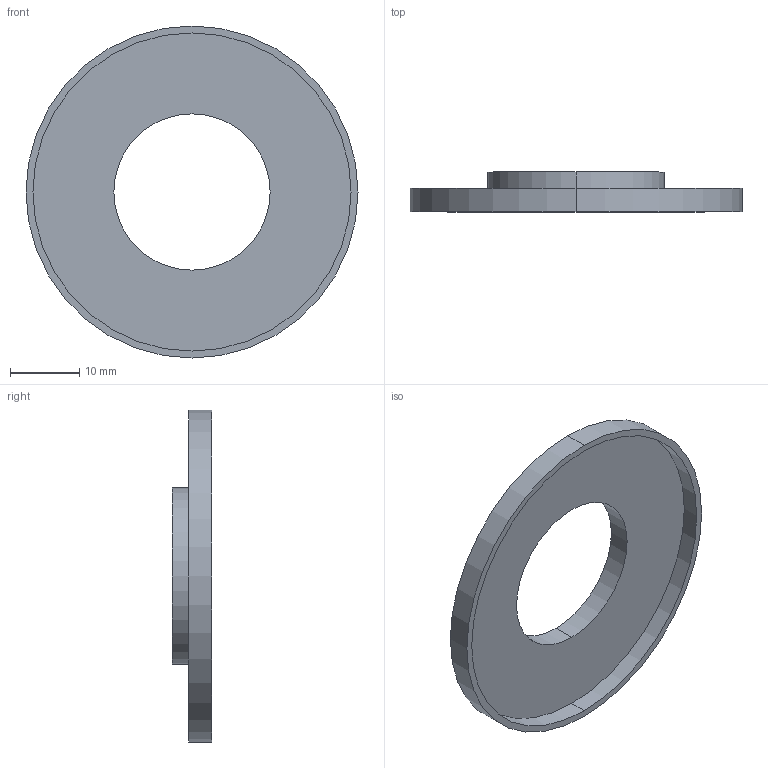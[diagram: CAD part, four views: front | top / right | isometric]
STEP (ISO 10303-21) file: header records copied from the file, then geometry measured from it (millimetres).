
FILE_DESCRIPTION (( 'STEP AP214' ), '1' );
FILE_NAME ('SU25.5-46.STEP', '2019-04-03T14:55:14', ( '' ), ( '' ), 'SwSTEP 2.0', 'SolidWorks 2019', '' );
FILE_SCHEMA (( 'AUTOMOTIVE_DESIGN' ));
Length unit declared in the file: millimetre
Products named in the file (1): SU25.5-46
Bounding box: 48 x 5.75 x 48 mm (x, y, z)
Volume: 1804.8 mm3; surface area: 4110.6 mm2
Topology: 1 solids, 1 shells, 12 faces, 24 edges, 16 vertices
Faces by surface type: cylinder 8, plane 4
Entity records: 362 total; most frequent: DIRECTION 66, CARTESIAN_POINT 53, ORIENTED_EDGE 48, AXIS2_PLACEMENT_3D 29, EDGE_CURVE 24, VERTEX_POINT 16, EDGE_LOOP 16, CIRCLE 16
